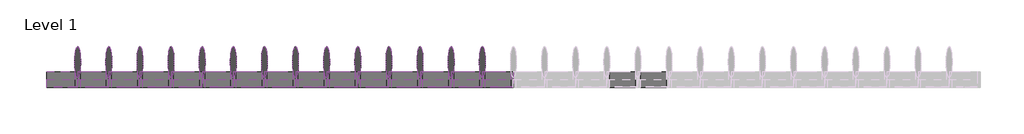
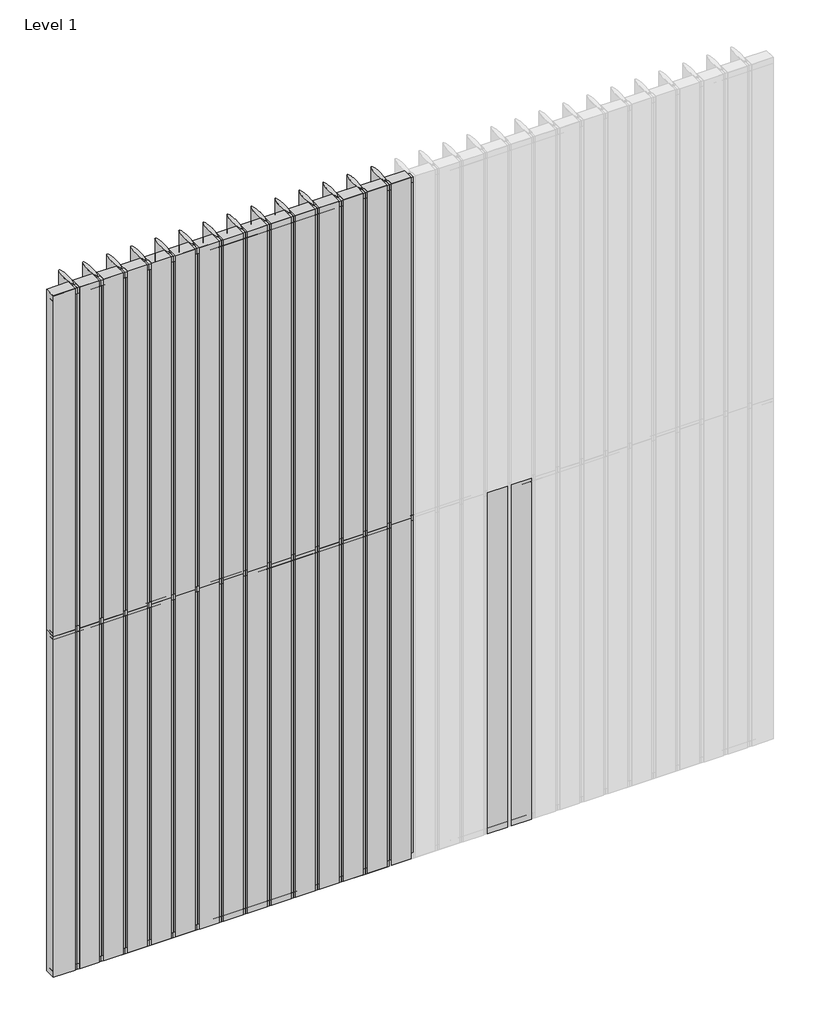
# One storey, part 1 of 2: 72 members, 62 plates.
"""IFC4 building model written with IfcOpenShell, lengths in millimetres."""

from ifc_helpers import new_model, si_unit, origin, place, context, project, spatial, transform, mapped, element, save
from components import rectangular_mullion_139a1767, rectangular_mullion_a06afc58, rectangular_mullion_614df7cf, rectangular_mullion_7d91d70c, empty_system_panel_empty_c6c0e791, empty_system_panel_empty_de494967, empty_system_panel_empty_763ef950

model = new_model("IFC4")

# Units and contexts
model_context = context("Model", 3, world=origin())
ifc_project = project(units=[si_unit("LENGTHUNIT", "METRE", prefix="MILLI")], contexts=[model_context])

# Site, building, storey
site = spatial("IfcSite", under=ifc_project)
building = spatial("IfcBuilding", under=site)
storey = spatial("IfcBuildingStorey", under=building, Name="Level 1", Elevation=0.0)

# Members
placement = place(None, origin())
rectangular_mullion_shape = rectangular_mullion_139a1767(model_context)
element("IfcMember", 1, ObjectType="Rectangular Mullion : RSen_21_CWM_blade - 200 ellips - 0°_gen_duco projects", at=placement, inside=storey, context=model_context, shape_type="MappedRepresentation", body=[
    mapped(rectangular_mullion_shape, transform((2800.0, 3000.0, 0.0), x_axis=(-1.0, 0.0, 0.0), y_axis=(0.0, 1.0, 0.0), z_axis=(0.0, 0.0, -1.0))),
])
element("IfcMember", 2, ObjectType="Rectangular Mullion : RSen_21_CWM_blade - 200 ellips - 0°_gen_duco projects", at=placement, inside=storey, context=model_context, shape_type="MappedRepresentation", body=[
    mapped(rectangular_mullion_shape, transform((2600.0, 3000.0, 0.0), x_axis=(-1.0, 0.0, 0.0), y_axis=(0.0, 1.0, 0.0), z_axis=(0.0, 0.0, -1.0))),
])
element("IfcMember", 3, ObjectType="Rectangular Mullion : RSen_21_CWM_blade - 200 ellips - 0°_gen_duco projects", at=placement, inside=storey, context=model_context, shape_type="MappedRepresentation", body=[
    mapped(rectangular_mullion_shape, transform((2400.0, 3000.0, 0.0), x_axis=(-1.0, 0.0, 0.0), y_axis=(0.0, 1.0, 0.0), z_axis=(0.0, 0.0, -1.0))),
])
element("IfcMember", 4, ObjectType="Rectangular Mullion : RSen_21_CWM_blade - 200 ellips - 0°_gen_duco projects", at=placement, inside=storey, context=model_context, shape_type="MappedRepresentation", body=[
    mapped(rectangular_mullion_shape, transform((2200.0, 3000.0, 0.0), x_axis=(-1.0, 0.0, 0.0), y_axis=(0.0, 1.0, 0.0), z_axis=(0.0, 0.0, -1.0))),
])
element("IfcMember", 5, ObjectType="Rectangular Mullion : RSen_21_CWM_blade - 200 ellips - 0°_gen_duco projects", at=placement, inside=storey, context=model_context, shape_type="MappedRepresentation", body=[
    mapped(rectangular_mullion_shape, transform((2000.0, 3000.0, 0.0), x_axis=(-1.0, 0.0, 0.0), y_axis=(0.0, 1.0, 0.0), z_axis=(0.0, 0.0, -1.0))),
])
element("IfcMember", 6, ObjectType="Rectangular Mullion : RSen_21_CWM_blade - 200 ellips - 0°_gen_duco projects", at=placement, inside=storey, context=model_context, shape_type="MappedRepresentation", body=[
    mapped(rectangular_mullion_shape, transform((1800.0, 3000.0, 0.0), x_axis=(-1.0, 0.0, 0.0), y_axis=(0.0, 1.0, 0.0), z_axis=(0.0, 0.0, -1.0))),
])
element("IfcMember", 7, ObjectType="Rectangular Mullion : RSen_21_CWM_blade - 200 ellips - 0°_gen_duco projects", at=placement, inside=storey, context=model_context, shape_type="MappedRepresentation", body=[
    mapped(rectangular_mullion_shape, transform((1600.0, 3000.0, 0.0), x_axis=(-1.0, 0.0, 0.0), y_axis=(0.0, 1.0, 0.0), z_axis=(0.0, 0.0, -1.0))),
])
element("IfcMember", 8, ObjectType="Rectangular Mullion : RSen_21_CWM_blade - 200 ellips - 0°_gen_duco projects", at=placement, inside=storey, context=model_context, shape_type="MappedRepresentation", body=[
    mapped(rectangular_mullion_shape, transform((1400.0, 3000.0, 0.0), x_axis=(-1.0, 0.0, 0.0), y_axis=(0.0, 1.0, 0.0), z_axis=(0.0, 0.0, -1.0))),
])
element("IfcMember", 9, ObjectType="Rectangular Mullion : RSen_21_CWM_blade - 200 ellips - 0°_gen_duco projects", at=placement, inside=storey, context=model_context, shape_type="MappedRepresentation", body=[
    mapped(rectangular_mullion_shape, transform((1200.0, 3000.0, 0.0), x_axis=(-1.0, 0.0, 0.0), y_axis=(0.0, 1.0, 0.0), z_axis=(0.0, 0.0, -1.0))),
])
element("IfcMember", 10, ObjectType="Rectangular Mullion : RSen_21_CWM_blade - 200 ellips - 0°_gen_duco projects", at=placement, inside=storey, context=model_context, shape_type="MappedRepresentation", body=[
    mapped(rectangular_mullion_shape, transform((1000.0, 3000.0, 0.0), x_axis=(-1.0, 0.0, 0.0), y_axis=(0.0, 1.0, 0.0), z_axis=(0.0, 0.0, -1.0))),
])
element("IfcMember", 11, ObjectType="Rectangular Mullion : RSen_21_CWM_blade - 200 ellips - 0°_gen_duco projects", at=placement, inside=storey, context=model_context, shape_type="MappedRepresentation", body=[
    mapped(rectangular_mullion_shape, transform((800.0, 3000.0, 0.0), x_axis=(-1.0, 0.0, 0.0), y_axis=(0.0, 1.0, 0.0), z_axis=(0.0, 0.0, -1.0))),
])
element("IfcMember", 12, ObjectType="Rectangular Mullion : RSen_21_CWM_blade - 200 ellips - 0°_gen_duco projects", at=placement, inside=storey, context=model_context, shape_type="MappedRepresentation", body=[
    mapped(rectangular_mullion_shape, transform((600.0, 3000.0, 0.0), x_axis=(-1.0, 0.0, 0.0), y_axis=(0.0, 1.0, 0.0), z_axis=(0.0, 0.0, -1.0))),
])
element("IfcMember", 13, ObjectType="Rectangular Mullion : RSen_21_CWM_blade - 200 ellips - 0°_gen_duco projects", at=placement, inside=storey, context=model_context, shape_type="MappedRepresentation", body=[
    mapped(rectangular_mullion_shape, transform((400.0, 3000.0, 0.0), x_axis=(-1.0, 0.0, 0.0), y_axis=(0.0, 1.0, 0.0), z_axis=(0.0, 0.0, -1.0))),
])
element("IfcMember", 14, ObjectType="Rectangular Mullion : RSen_21_CWM_blade - 200 ellips - 0°_gen_duco projects", at=placement, inside=storey, context=model_context, shape_type="MappedRepresentation", body=[
    mapped(rectangular_mullion_shape, transform((200.0, 3000.0, 0.0), x_axis=(-1.0, 0.0, 0.0), y_axis=(0.0, 1.0, 0.0), z_axis=(0.0, 0.0, -1.0))),
])
element("IfcMember", 15, ObjectType="Rectangular Mullion : RSen_21_CWM_blade - 200 ellips - 0°_gen_duco projects", at=placement, inside=storey, context=model_context, shape_type="MappedRepresentation", body=[
    mapped(rectangular_mullion_shape, transform((2800.0, 3000.0, 3000.0), x_axis=(-1.0, 0.0, 0.0), y_axis=(0.0, 1.0, 0.0), z_axis=(0.0, 0.0, -1.0))),
])
element("IfcMember", 16, ObjectType="Rectangular Mullion : RSen_21_CWM_blade - 200 ellips - 0°_gen_duco projects", at=placement, inside=storey, context=model_context, shape_type="MappedRepresentation", body=[
    mapped(rectangular_mullion_shape, transform((2600.0, 3000.0, 3000.0), x_axis=(-1.0, 0.0, 0.0), y_axis=(0.0, 1.0, 0.0), z_axis=(0.0, 0.0, -1.0))),
])
element("IfcMember", 17, ObjectType="Rectangular Mullion : RSen_21_CWM_blade - 200 ellips - 0°_gen_duco projects", at=placement, inside=storey, context=model_context, shape_type="MappedRepresentation", body=[
    mapped(rectangular_mullion_shape, transform((2400.0, 3000.0, 3000.0), x_axis=(-1.0, 0.0, 0.0), y_axis=(0.0, 1.0, 0.0), z_axis=(0.0, 0.0, -1.0))),
])
element("IfcMember", 18, ObjectType="Rectangular Mullion : RSen_21_CWM_blade - 200 ellips - 0°_gen_duco projects", at=placement, inside=storey, context=model_context, shape_type="MappedRepresentation", body=[
    mapped(rectangular_mullion_shape, transform((2200.0, 3000.0, 3000.0), x_axis=(-1.0, 0.0, 0.0), y_axis=(0.0, 1.0, 0.0), z_axis=(0.0, 0.0, -1.0))),
])
element("IfcMember", 19, ObjectType="Rectangular Mullion : RSen_21_CWM_blade - 200 ellips - 0°_gen_duco projects", at=placement, inside=storey, context=model_context, shape_type="MappedRepresentation", body=[
    mapped(rectangular_mullion_shape, transform((2000.0, 3000.0, 3000.0), x_axis=(-1.0, 0.0, 0.0), y_axis=(0.0, 1.0, 0.0), z_axis=(0.0, 0.0, -1.0))),
])
element("IfcMember", 20, ObjectType="Rectangular Mullion : RSen_21_CWM_blade - 200 ellips - 0°_gen_duco projects", at=placement, inside=storey, context=model_context, shape_type="MappedRepresentation", body=[
    mapped(rectangular_mullion_shape, transform((1800.0, 3000.0, 3000.0), x_axis=(-1.0, 0.0, 0.0), y_axis=(0.0, 1.0, 0.0), z_axis=(0.0, 0.0, -1.0))),
])
element("IfcMember", 21, ObjectType="Rectangular Mullion : RSen_21_CWM_blade - 200 ellips - 0°_gen_duco projects", at=placement, inside=storey, context=model_context, shape_type="MappedRepresentation", body=[
    mapped(rectangular_mullion_shape, transform((1600.0, 3000.0, 3000.0), x_axis=(-1.0, 0.0, 0.0), y_axis=(0.0, 1.0, 0.0), z_axis=(0.0, 0.0, -1.0))),
])
element("IfcMember", 22, ObjectType="Rectangular Mullion : RSen_21_CWM_blade - 200 ellips - 0°_gen_duco projects", at=placement, inside=storey, context=model_context, shape_type="MappedRepresentation", body=[
    mapped(rectangular_mullion_shape, transform((1400.0, 3000.0, 3000.0), x_axis=(-1.0, 0.0, 0.0), y_axis=(0.0, 1.0, 0.0), z_axis=(0.0, 0.0, -1.0))),
])
element("IfcMember", 23, ObjectType="Rectangular Mullion : RSen_21_CWM_blade - 200 ellips - 0°_gen_duco projects", at=placement, inside=storey, context=model_context, shape_type="MappedRepresentation", body=[
    mapped(rectangular_mullion_shape, transform((1200.0, 3000.0, 3000.0), x_axis=(-1.0, 0.0, 0.0), y_axis=(0.0, 1.0, 0.0), z_axis=(0.0, 0.0, -1.0))),
])
element("IfcMember", 24, ObjectType="Rectangular Mullion : RSen_21_CWM_blade - 200 ellips - 0°_gen_duco projects", at=placement, inside=storey, context=model_context, shape_type="MappedRepresentation", body=[
    mapped(rectangular_mullion_shape, transform((1000.0, 3000.0, 3000.0), x_axis=(-1.0, 0.0, 0.0), y_axis=(0.0, 1.0, 0.0), z_axis=(0.0, 0.0, -1.0))),
])
element("IfcMember", 25, ObjectType="Rectangular Mullion : RSen_21_CWM_blade - 200 ellips - 0°_gen_duco projects", at=placement, inside=storey, context=model_context, shape_type="MappedRepresentation", body=[
    mapped(rectangular_mullion_shape, transform((800.0, 3000.0, 3000.0), x_axis=(-1.0, 0.0, 0.0), y_axis=(0.0, 1.0, 0.0), z_axis=(0.0, 0.0, -1.0))),
])
element("IfcMember", 26, ObjectType="Rectangular Mullion : RSen_21_CWM_blade - 200 ellips - 0°_gen_duco projects", at=placement, inside=storey, context=model_context, shape_type="MappedRepresentation", body=[
    mapped(rectangular_mullion_shape, transform((600.0, 3000.0, 3000.0), x_axis=(-1.0, 0.0, 0.0), y_axis=(0.0, 1.0, 0.0), z_axis=(0.0, 0.0, -1.0))),
])
element("IfcMember", 27, ObjectType="Rectangular Mullion : RSen_21_CWM_blade - 200 ellips - 0°_gen_duco projects", at=placement, inside=storey, context=model_context, shape_type="MappedRepresentation", body=[
    mapped(rectangular_mullion_shape, transform((400.0, 3000.0, 3000.0), x_axis=(-1.0, 0.0, 0.0), y_axis=(0.0, 1.0, 0.0), z_axis=(0.0, 0.0, -1.0))),
])
element("IfcMember", 28, ObjectType="Rectangular Mullion : RSen_21_CWM_blade - 200 ellips - 0°_gen_duco projects", at=placement, inside=storey, context=model_context, shape_type="MappedRepresentation", body=[
    mapped(rectangular_mullion_shape, transform((200.0, 3000.0, 3000.0), x_axis=(-1.0, 0.0, 0.0), y_axis=(0.0, 1.0, 0.0), z_axis=(0.0, 0.0, -1.0))),
])
rectangular_mullion_2_shape = rectangular_mullion_a06afc58(model_context)
element("IfcMember", 29, ObjectType="Rectangular Mullion : RSen_21_CWM_support profile 50x50 - left_gen_duco projects", at=placement, inside=storey, context=model_context, shape_type="MappedRepresentation", body=[
    mapped(rectangular_mullion_2_shape, transform((0.0, 3000.0, 6000.0), x_axis=(0.0, 0.0, 1.0), y_axis=(0.0, 1.0, 0.0), z_axis=(-1.0, 0.0, 0.0))),
])
element("IfcMember", 30, ObjectType="Rectangular Mullion : RSen_21_CWM_support profile 50x50 - left_gen_duco projects", at=placement, inside=storey, context=model_context, shape_type="MappedRepresentation", body=[
    mapped(rectangular_mullion_2_shape, transform((2800.0, 3000.0, 6000.0), x_axis=(0.0, 0.0, 1.0), y_axis=(0.0, 1.0, 0.0), z_axis=(-1.0, 0.0, 0.0))),
])
element("IfcMember", 31, ObjectType="Rectangular Mullion : RSen_21_CWM_support profile 50x50 - left_gen_duco projects", at=placement, inside=storey, context=model_context, shape_type="MappedRepresentation", body=[
    mapped(rectangular_mullion_2_shape, transform((2600.0, 3000.0, 6000.0), x_axis=(0.0, 0.0, 1.0), y_axis=(0.0, 1.0, 0.0), z_axis=(-1.0, 0.0, 0.0))),
])
element("IfcMember", 32, ObjectType="Rectangular Mullion : RSen_21_CWM_support profile 50x50 - left_gen_duco projects", at=placement, inside=storey, context=model_context, shape_type="MappedRepresentation", body=[
    mapped(rectangular_mullion_2_shape, transform((2400.0, 3000.0, 6000.0), x_axis=(0.0, 0.0, 1.0), y_axis=(0.0, 1.0, 0.0), z_axis=(-1.0, 0.0, 0.0))),
])
element("IfcMember", 33, ObjectType="Rectangular Mullion : RSen_21_CWM_support profile 50x50 - left_gen_duco projects", at=placement, inside=storey, context=model_context, shape_type="MappedRepresentation", body=[
    mapped(rectangular_mullion_2_shape, transform((2200.0, 3000.0, 6000.0), x_axis=(0.0, 0.0, 1.0), y_axis=(0.0, 1.0, 0.0), z_axis=(-1.0, 0.0, 0.0))),
])
element("IfcMember", 34, ObjectType="Rectangular Mullion : RSen_21_CWM_support profile 50x50 - left_gen_duco projects", at=placement, inside=storey, context=model_context, shape_type="MappedRepresentation", body=[
    mapped(rectangular_mullion_2_shape, transform((2000.0, 3000.0, 6000.0), x_axis=(0.0, 0.0, 1.0), y_axis=(0.0, 1.0, 0.0), z_axis=(-1.0, 0.0, 0.0))),
])
element("IfcMember", 35, ObjectType="Rectangular Mullion : RSen_21_CWM_support profile 50x50 - left_gen_duco projects", at=placement, inside=storey, context=model_context, shape_type="MappedRepresentation", body=[
    mapped(rectangular_mullion_2_shape, transform((1800.0, 3000.0, 6000.0), x_axis=(0.0, 0.0, 1.0), y_axis=(0.0, 1.0, 0.0), z_axis=(-1.0, 0.0, 0.0))),
])
element("IfcMember", 36, ObjectType="Rectangular Mullion : RSen_21_CWM_support profile 50x50 - left_gen_duco projects", at=placement, inside=storey, context=model_context, shape_type="MappedRepresentation", body=[
    mapped(rectangular_mullion_2_shape, transform((1600.0, 3000.0, 6000.0), x_axis=(0.0, 0.0, 1.0), y_axis=(0.0, 1.0, 0.0), z_axis=(-1.0, 0.0, 0.0))),
])
element("IfcMember", 37, ObjectType="Rectangular Mullion : RSen_21_CWM_support profile 50x50 - left_gen_duco projects", at=placement, inside=storey, context=model_context, shape_type="MappedRepresentation", body=[
    mapped(rectangular_mullion_2_shape, transform((1400.0, 3000.0, 6000.0), x_axis=(0.0, 0.0, 1.0), y_axis=(0.0, 1.0, 0.0), z_axis=(-1.0, 0.0, 0.0))),
])
element("IfcMember", 38, ObjectType="Rectangular Mullion : RSen_21_CWM_support profile 50x50 - left_gen_duco projects", at=placement, inside=storey, context=model_context, shape_type="MappedRepresentation", body=[
    mapped(rectangular_mullion_2_shape, transform((1200.0, 3000.0, 6000.0), x_axis=(0.0, 0.0, 1.0), y_axis=(0.0, 1.0, 0.0), z_axis=(-1.0, 0.0, 0.0))),
])
element("IfcMember", 39, ObjectType="Rectangular Mullion : RSen_21_CWM_support profile 50x50 - left_gen_duco projects", at=placement, inside=storey, context=model_context, shape_type="MappedRepresentation", body=[
    mapped(rectangular_mullion_2_shape, transform((1000.0, 3000.0, 6000.0), x_axis=(0.0, 0.0, 1.0), y_axis=(0.0, 1.0, 0.0), z_axis=(-1.0, 0.0, 0.0))),
])
element("IfcMember", 40, ObjectType="Rectangular Mullion : RSen_21_CWM_support profile 50x50 - left_gen_duco projects", at=placement, inside=storey, context=model_context, shape_type="MappedRepresentation", body=[
    mapped(rectangular_mullion_2_shape, transform((800.0, 3000.0, 6000.0), x_axis=(0.0, 0.0, 1.0), y_axis=(0.0, 1.0, 0.0), z_axis=(-1.0, 0.0, 0.0))),
])
element("IfcMember", 41, ObjectType="Rectangular Mullion : RSen_21_CWM_support profile 50x50 - left_gen_duco projects", at=placement, inside=storey, context=model_context, shape_type="MappedRepresentation", body=[
    mapped(rectangular_mullion_2_shape, transform((600.0, 3000.0, 6000.0), x_axis=(0.0, 0.0, 1.0), y_axis=(0.0, 1.0, 0.0), z_axis=(-1.0, 0.0, 0.0))),
])
element("IfcMember", 42, ObjectType="Rectangular Mullion : RSen_21_CWM_support profile 50x50 - left_gen_duco projects", at=placement, inside=storey, context=model_context, shape_type="MappedRepresentation", body=[
    mapped(rectangular_mullion_2_shape, transform((400.0, 3000.0, 6000.0), x_axis=(0.0, 0.0, 1.0), y_axis=(0.0, 1.0, 0.0), z_axis=(-1.0, 0.0, 0.0))),
])
element("IfcMember", 43, ObjectType="Rectangular Mullion : RSen_21_CWM_support profile 50x50 - left_gen_duco projects", at=placement, inside=storey, context=model_context, shape_type="MappedRepresentation", body=[
    mapped(rectangular_mullion_2_shape, transform((200.0, 3000.0, 6000.0), x_axis=(0.0, 0.0, 1.0), y_axis=(0.0, 1.0, 0.0), z_axis=(-1.0, 0.0, 0.0))),
])
rectangular_mullion_3_shape = rectangular_mullion_614df7cf(model_context)
element("IfcMember", 44, ObjectType="Rectangular Mullion : RSen_21_CWM_support profile 50x50 - right_gen_duco projects", at=placement, inside=storey, context=model_context, shape_type="MappedRepresentation", body=[
    mapped(rectangular_mullion_3_shape, transform((2800.0, 3000.0, 0.0), x_axis=(0.0, 0.0, -1.0), y_axis=(0.0, 1.0, 0.0), z_axis=(1.0, 0.0, 0.0))),
])
element("IfcMember", 45, ObjectType="Rectangular Mullion : RSen_21_CWM_support profile 50x50 - right_gen_duco projects", at=placement, inside=storey, context=model_context, shape_type="MappedRepresentation", body=[
    mapped(rectangular_mullion_3_shape, transform((2600.0, 3000.0, 0.0), x_axis=(0.0, 0.0, -1.0), y_axis=(0.0, 1.0, 0.0), z_axis=(1.0, 0.0, 0.0))),
])
element("IfcMember", 46, ObjectType="Rectangular Mullion : RSen_21_CWM_support profile 50x50 - right_gen_duco projects", at=placement, inside=storey, context=model_context, shape_type="MappedRepresentation", body=[
    mapped(rectangular_mullion_3_shape, transform((2400.0, 3000.0, 0.0), x_axis=(0.0, 0.0, -1.0), y_axis=(0.0, 1.0, 0.0), z_axis=(1.0, 0.0, 0.0))),
])
element("IfcMember", 47, ObjectType="Rectangular Mullion : RSen_21_CWM_support profile 50x50 - right_gen_duco projects", at=placement, inside=storey, context=model_context, shape_type="MappedRepresentation", body=[
    mapped(rectangular_mullion_3_shape, transform((2200.0, 3000.0, 0.0), x_axis=(0.0, 0.0, -1.0), y_axis=(0.0, 1.0, 0.0), z_axis=(1.0, 0.0, 0.0))),
])
element("IfcMember", 48, ObjectType="Rectangular Mullion : RSen_21_CWM_support profile 50x50 - right_gen_duco projects", at=placement, inside=storey, context=model_context, shape_type="MappedRepresentation", body=[
    mapped(rectangular_mullion_3_shape, transform((2000.0, 3000.0, 0.0), x_axis=(0.0, 0.0, -1.0), y_axis=(0.0, 1.0, 0.0), z_axis=(1.0, 0.0, 0.0))),
])
element("IfcMember", 49, ObjectType="Rectangular Mullion : RSen_21_CWM_support profile 50x50 - right_gen_duco projects", at=placement, inside=storey, context=model_context, shape_type="MappedRepresentation", body=[
    mapped(rectangular_mullion_3_shape, transform((1800.0, 3000.0, 0.0), x_axis=(0.0, 0.0, -1.0), y_axis=(0.0, 1.0, 0.0), z_axis=(1.0, 0.0, 0.0))),
])
element("IfcMember", 50, ObjectType="Rectangular Mullion : RSen_21_CWM_support profile 50x50 - right_gen_duco projects", at=placement, inside=storey, context=model_context, shape_type="MappedRepresentation", body=[
    mapped(rectangular_mullion_3_shape, transform((1600.0, 3000.0, 0.0), x_axis=(0.0, 0.0, -1.0), y_axis=(0.0, 1.0, 0.0), z_axis=(1.0, 0.0, 0.0))),
])
element("IfcMember", 51, ObjectType="Rectangular Mullion : RSen_21_CWM_support profile 50x50 - right_gen_duco projects", at=placement, inside=storey, context=model_context, shape_type="MappedRepresentation", body=[
    mapped(rectangular_mullion_3_shape, transform((1400.0, 3000.0, 0.0), x_axis=(0.0, 0.0, -1.0), y_axis=(0.0, 1.0, 0.0), z_axis=(1.0, 0.0, 0.0))),
])
element("IfcMember", 52, ObjectType="Rectangular Mullion : RSen_21_CWM_support profile 50x50 - right_gen_duco projects", at=placement, inside=storey, context=model_context, shape_type="MappedRepresentation", body=[
    mapped(rectangular_mullion_3_shape, transform((1200.0, 3000.0, 0.0), x_axis=(0.0, 0.0, -1.0), y_axis=(0.0, 1.0, 0.0), z_axis=(1.0, 0.0, 0.0))),
])
element("IfcMember", 53, ObjectType="Rectangular Mullion : RSen_21_CWM_support profile 50x50 - right_gen_duco projects", at=placement, inside=storey, context=model_context, shape_type="MappedRepresentation", body=[
    mapped(rectangular_mullion_3_shape, transform((1000.0, 3000.0, 0.0), x_axis=(0.0, 0.0, -1.0), y_axis=(0.0, 1.0, 0.0), z_axis=(1.0, 0.0, 0.0))),
])
element("IfcMember", 54, ObjectType="Rectangular Mullion : RSen_21_CWM_support profile 50x50 - right_gen_duco projects", at=placement, inside=storey, context=model_context, shape_type="MappedRepresentation", body=[
    mapped(rectangular_mullion_3_shape, transform((800.0, 3000.0, 0.0), x_axis=(0.0, 0.0, -1.0), y_axis=(0.0, 1.0, 0.0), z_axis=(1.0, 0.0, 0.0))),
])
element("IfcMember", 55, ObjectType="Rectangular Mullion : RSen_21_CWM_support profile 50x50 - right_gen_duco projects", at=placement, inside=storey, context=model_context, shape_type="MappedRepresentation", body=[
    mapped(rectangular_mullion_3_shape, transform((600.0, 3000.0, 0.0), x_axis=(0.0, 0.0, -1.0), y_axis=(0.0, 1.0, 0.0), z_axis=(1.0, 0.0, 0.0))),
])
element("IfcMember", 56, ObjectType="Rectangular Mullion : RSen_21_CWM_support profile 50x50 - right_gen_duco projects", at=placement, inside=storey, context=model_context, shape_type="MappedRepresentation", body=[
    mapped(rectangular_mullion_3_shape, transform((400.0, 3000.0, 0.0), x_axis=(0.0, 0.0, -1.0), y_axis=(0.0, 1.0, 0.0), z_axis=(1.0, 0.0, 0.0))),
])
element("IfcMember", 57, ObjectType="Rectangular Mullion : RSen_21_CWM_support profile 50x50 - right_gen_duco projects", at=placement, inside=storey, context=model_context, shape_type="MappedRepresentation", body=[
    mapped(rectangular_mullion_3_shape, transform((200.0, 3000.0, 0.0), x_axis=(0.0, 0.0, -1.0), y_axis=(0.0, 1.0, 0.0), z_axis=(1.0, 0.0, 0.0))),
])
rectangular_mullion_4_shape = rectangular_mullion_7d91d70c(model_context)
element("IfcMember", 58, ObjectType="Rectangular Mullion : RSen_21_CWM_support profile 50x50_gen_duco projects", at=placement, inside=storey, context=model_context, shape_type="MappedRepresentation", body=[
    mapped(rectangular_mullion_4_shape, transform((2800.0, 3000.0, 3000.0), x_axis=(0.0, 0.0, 1.0), y_axis=(0.0, 1.0, 0.0), z_axis=(-1.0, 0.0, 0.0))),
])
element("IfcMember", 59, ObjectType="Rectangular Mullion : RSen_21_CWM_support profile 50x50_gen_duco projects", at=placement, inside=storey, context=model_context, shape_type="MappedRepresentation", body=[
    mapped(rectangular_mullion_4_shape, transform((2600.0, 3000.0, 3000.0), x_axis=(0.0, 0.0, 1.0), y_axis=(0.0, 1.0, 0.0), z_axis=(-1.0, 0.0, 0.0))),
])
element("IfcMember", 60, ObjectType="Rectangular Mullion : RSen_21_CWM_support profile 50x50_gen_duco projects", at=placement, inside=storey, context=model_context, shape_type="MappedRepresentation", body=[
    mapped(rectangular_mullion_4_shape, transform((2400.0, 3000.0, 3000.0), x_axis=(0.0, 0.0, 1.0), y_axis=(0.0, 1.0, 0.0), z_axis=(-1.0, 0.0, 0.0))),
])
element("IfcMember", 61, ObjectType="Rectangular Mullion : RSen_21_CWM_support profile 50x50_gen_duco projects", at=placement, inside=storey, context=model_context, shape_type="MappedRepresentation", body=[
    mapped(rectangular_mullion_4_shape, transform((2200.0, 3000.0, 3000.0), x_axis=(0.0, 0.0, 1.0), y_axis=(0.0, 1.0, 0.0), z_axis=(-1.0, 0.0, 0.0))),
])
element("IfcMember", 62, ObjectType="Rectangular Mullion : RSen_21_CWM_support profile 50x50_gen_duco projects", at=placement, inside=storey, context=model_context, shape_type="MappedRepresentation", body=[
    mapped(rectangular_mullion_4_shape, transform((2000.0, 3000.0, 3000.0), x_axis=(0.0, 0.0, 1.0), y_axis=(0.0, 1.0, 0.0), z_axis=(-1.0, 0.0, 0.0))),
])
element("IfcMember", 63, ObjectType="Rectangular Mullion : RSen_21_CWM_support profile 50x50_gen_duco projects", at=placement, inside=storey, context=model_context, shape_type="MappedRepresentation", body=[
    mapped(rectangular_mullion_4_shape, transform((1800.0, 3000.0, 3000.0), x_axis=(0.0, 0.0, 1.0), y_axis=(0.0, 1.0, 0.0), z_axis=(-1.0, 0.0, 0.0))),
])
element("IfcMember", 64, ObjectType="Rectangular Mullion : RSen_21_CWM_support profile 50x50_gen_duco projects", at=placement, inside=storey, context=model_context, shape_type="MappedRepresentation", body=[
    mapped(rectangular_mullion_4_shape, transform((1600.0, 3000.0, 3000.0), x_axis=(0.0, 0.0, 1.0), y_axis=(0.0, 1.0, 0.0), z_axis=(-1.0, 0.0, 0.0))),
])
element("IfcMember", 65, ObjectType="Rectangular Mullion : RSen_21_CWM_support profile 50x50_gen_duco projects", at=placement, inside=storey, context=model_context, shape_type="MappedRepresentation", body=[
    mapped(rectangular_mullion_4_shape, transform((1400.0, 3000.0, 3000.0), x_axis=(0.0, 0.0, 1.0), y_axis=(0.0, 1.0, 0.0), z_axis=(-1.0, 0.0, 0.0))),
])
element("IfcMember", 66, ObjectType="Rectangular Mullion : RSen_21_CWM_support profile 50x50_gen_duco projects", at=placement, inside=storey, context=model_context, shape_type="MappedRepresentation", body=[
    mapped(rectangular_mullion_4_shape, transform((1200.0, 3000.0, 3000.0), x_axis=(0.0, 0.0, 1.0), y_axis=(0.0, 1.0, 0.0), z_axis=(-1.0, 0.0, 0.0))),
])
element("IfcMember", 67, ObjectType="Rectangular Mullion : RSen_21_CWM_support profile 50x50_gen_duco projects", at=placement, inside=storey, context=model_context, shape_type="MappedRepresentation", body=[
    mapped(rectangular_mullion_4_shape, transform((1000.0, 3000.0, 3000.0), x_axis=(0.0, 0.0, 1.0), y_axis=(0.0, 1.0, 0.0), z_axis=(-1.0, 0.0, 0.0))),
])
element("IfcMember", 68, ObjectType="Rectangular Mullion : RSen_21_CWM_support profile 50x50_gen_duco projects", at=placement, inside=storey, context=model_context, shape_type="MappedRepresentation", body=[
    mapped(rectangular_mullion_4_shape, transform((800.0, 3000.0, 3000.0), x_axis=(0.0, 0.0, 1.0), y_axis=(0.0, 1.0, 0.0), z_axis=(-1.0, 0.0, 0.0))),
])
element("IfcMember", 69, ObjectType="Rectangular Mullion : RSen_21_CWM_support profile 50x50_gen_duco projects", at=placement, inside=storey, context=model_context, shape_type="MappedRepresentation", body=[
    mapped(rectangular_mullion_4_shape, transform((600.0, 3000.0, 3000.0), x_axis=(0.0, 0.0, 1.0), y_axis=(0.0, 1.0, 0.0), z_axis=(-1.0, 0.0, 0.0))),
])
element("IfcMember", 70, ObjectType="Rectangular Mullion : RSen_21_CWM_support profile 50x50_gen_duco projects", at=placement, inside=storey, context=model_context, shape_type="MappedRepresentation", body=[
    mapped(rectangular_mullion_4_shape, transform((400.0, 3000.0, 3000.0), x_axis=(0.0, 0.0, 1.0), y_axis=(0.0, 1.0, 0.0), z_axis=(-1.0, 0.0, 0.0))),
])
element("IfcMember", 71, ObjectType="Rectangular Mullion : RSen_21_CWM_support profile 50x50_gen_duco projects", at=placement, inside=storey, context=model_context, shape_type="MappedRepresentation", body=[
    mapped(rectangular_mullion_4_shape, transform((200.0, 3000.0, 3000.0), x_axis=(0.0, 0.0, 1.0), y_axis=(0.0, 1.0, 0.0), z_axis=(-1.0, 0.0, 0.0))),
])
element("IfcMember", 72, ObjectType="Rectangular Mullion : RSen_21_CWM_support profile 50x50_gen_duco projects", at=placement, inside=storey, context=model_context, shape_type="MappedRepresentation", body=[
    mapped(rectangular_mullion_4_shape, transform((0.0, 3000.0, 3000.0), x_axis=(0.0, 0.0, 1.0), y_axis=(0.0, 1.0, 0.0), z_axis=(-1.0, 0.0, 0.0))),
])

# Plates
empty_system_panel_empty_shape = empty_system_panel_empty_c6c0e791(model_context)
element("IfcPlate", 73, ObjectType="Empty System Panel : Empty", at=placement, inside=storey, context=model_context, shape_type="MappedRepresentation", body=[
    mapped(empty_system_panel_empty_shape, transform((90.75, 3000.0, 0.0), x_axis=(-1.0, 0.0, 0.0), y_axis=(0.0, -1.0, 0.0), z_axis=(0.0, 0.0, 1.0))),
])
element("IfcPlate", 74, ObjectType="Empty System Panel : Empty", at=placement, inside=storey, context=model_context, shape_type="MappedRepresentation", body=[
    mapped(empty_system_panel_empty_shape, transform((90.75, 3000.0, 3000.0), x_axis=(-1.0, 0.0, 0.0), y_axis=(0.0, -1.0, 0.0), z_axis=(0.0, 0.0, 1.0))),
])
empty_system_panel_empty_2_shape = empty_system_panel_empty_de494967(model_context)
element("IfcPlate", 75, ObjectType="Empty System Panel : Empty", at=placement, inside=storey, context=model_context, shape_type="MappedRepresentation", body=[
    mapped(empty_system_panel_empty_2_shape, transform((3900.0, 3000.0, 0.0), x_axis=(-1.0, 0.0, 0.0), y_axis=(0.0, -1.0, 0.0), z_axis=(0.0, 0.0, 1.0))),
])
element("IfcPlate", 76, ObjectType="Empty System Panel : Empty", at=placement, inside=storey, context=model_context, shape_type="MappedRepresentation", body=[
    mapped(empty_system_panel_empty_2_shape, transform((3700.0, 3000.0, 0.0), x_axis=(-1.0, 0.0, 0.0), y_axis=(0.0, -1.0, 0.0), z_axis=(0.0, 0.0, 1.0))),
])
element("IfcPlate", 77, ObjectType="Empty System Panel : Empty", at=placement, inside=storey, context=model_context, shape_type="MappedRepresentation", body=[
    mapped(empty_system_panel_empty_2_shape, transform((2900.0, 3000.0, 0.0), x_axis=(-1.0, 0.0, 0.0), y_axis=(0.0, -1.0, 0.0), z_axis=(0.0, 0.0, 1.0))),
])
element("IfcPlate", 78, ObjectType="Empty System Panel : Empty", at=placement, inside=storey, context=model_context, shape_type="MappedRepresentation", body=[
    mapped(empty_system_panel_empty_2_shape, transform((2700.0, 3000.0, 0.0), x_axis=(-1.0, 0.0, 0.0), y_axis=(0.0, -1.0, 0.0), z_axis=(0.0, 0.0, 1.0))),
])
element("IfcPlate", 79, ObjectType="Empty System Panel : Empty", at=placement, inside=storey, context=model_context, shape_type="MappedRepresentation", body=[
    mapped(empty_system_panel_empty_2_shape, transform((2500.0, 3000.0, 0.0), x_axis=(-1.0, 0.0, 0.0), y_axis=(0.0, -1.0, 0.0), z_axis=(0.0, 0.0, 1.0))),
])
element("IfcPlate", 80, ObjectType="Empty System Panel : Empty", at=placement, inside=storey, context=model_context, shape_type="MappedRepresentation", body=[
    mapped(empty_system_panel_empty_2_shape, transform((2300.0, 3000.0, 0.0), x_axis=(-1.0, 0.0, 0.0), y_axis=(0.0, -1.0, 0.0), z_axis=(0.0, 0.0, 1.0))),
])
element("IfcPlate", 81, ObjectType="Empty System Panel : Empty", at=placement, inside=storey, context=model_context, shape_type="MappedRepresentation", body=[
    mapped(empty_system_panel_empty_2_shape, transform((2100.0, 3000.0, 0.0), x_axis=(-1.0, 0.0, 0.0), y_axis=(0.0, -1.0, 0.0), z_axis=(0.0, 0.0, 1.0))),
])
element("IfcPlate", 82, ObjectType="Empty System Panel : Empty", at=placement, inside=storey, context=model_context, shape_type="MappedRepresentation", body=[
    mapped(empty_system_panel_empty_2_shape, transform((1900.0, 3000.0, 0.0), x_axis=(-1.0, 0.0, 0.0), y_axis=(0.0, -1.0, 0.0), z_axis=(0.0, 0.0, 1.0))),
])
element("IfcPlate", 83, ObjectType="Empty System Panel : Empty", at=placement, inside=storey, context=model_context, shape_type="MappedRepresentation", body=[
    mapped(empty_system_panel_empty_2_shape, transform((1700.0, 3000.0, 0.0), x_axis=(-1.0, 0.0, 0.0), y_axis=(0.0, -1.0, 0.0), z_axis=(0.0, 0.0, 1.0))),
])
element("IfcPlate", 84, ObjectType="Empty System Panel : Empty", at=placement, inside=storey, context=model_context, shape_type="MappedRepresentation", body=[
    mapped(empty_system_panel_empty_2_shape, transform((1500.0, 3000.0, 0.0), x_axis=(-1.0, 0.0, 0.0), y_axis=(0.0, -1.0, 0.0), z_axis=(0.0, 0.0, 1.0))),
])
element("IfcPlate", 85, ObjectType="Empty System Panel : Empty", at=placement, inside=storey, context=model_context, shape_type="MappedRepresentation", body=[
    mapped(empty_system_panel_empty_2_shape, transform((1300.0, 3000.0, 0.0), x_axis=(-1.0, 0.0, 0.0), y_axis=(0.0, -1.0, 0.0), z_axis=(0.0, 0.0, 1.0))),
])
element("IfcPlate", 86, ObjectType="Empty System Panel : Empty", at=placement, inside=storey, context=model_context, shape_type="MappedRepresentation", body=[
    mapped(empty_system_panel_empty_2_shape, transform((1100.0, 3000.0, 0.0), x_axis=(-1.0, 0.0, 0.0), y_axis=(0.0, -1.0, 0.0), z_axis=(0.0, 0.0, 1.0))),
])
element("IfcPlate", 87, ObjectType="Empty System Panel : Empty", at=placement, inside=storey, context=model_context, shape_type="MappedRepresentation", body=[
    mapped(empty_system_panel_empty_2_shape, transform((900.0, 3000.0, 0.0), x_axis=(-1.0, 0.0, 0.0), y_axis=(0.0, -1.0, 0.0), z_axis=(0.0, 0.0, 1.0))),
])
element("IfcPlate", 88, ObjectType="Empty System Panel : Empty", at=placement, inside=storey, context=model_context, shape_type="MappedRepresentation", body=[
    mapped(empty_system_panel_empty_2_shape, transform((700.0, 3000.0, 0.0), x_axis=(-1.0, 0.0, 0.0), y_axis=(0.0, -1.0, 0.0), z_axis=(0.0, 0.0, 1.0))),
])
element("IfcPlate", 89, ObjectType="Empty System Panel : Empty", at=placement, inside=storey, context=model_context, shape_type="MappedRepresentation", body=[
    mapped(empty_system_panel_empty_2_shape, transform((500.0, 3000.0, 0.0), x_axis=(-1.0, 0.0, 0.0), y_axis=(0.0, -1.0, 0.0), z_axis=(0.0, 0.0, 1.0))),
])
element("IfcPlate", 90, ObjectType="Empty System Panel : Empty", at=placement, inside=storey, context=model_context, shape_type="MappedRepresentation", body=[
    mapped(empty_system_panel_empty_2_shape, transform((300.0, 3000.0, 0.0), x_axis=(-1.0, 0.0, 0.0), y_axis=(0.0, -1.0, 0.0), z_axis=(0.0, 0.0, 1.0))),
])
element("IfcPlate", 91, ObjectType="Empty System Panel : Empty", at=placement, inside=storey, context=model_context, shape_type="MappedRepresentation", body=[
    mapped(empty_system_panel_empty_2_shape, transform((2900.0, 3000.0, 3000.0), x_axis=(-1.0, 0.0, 0.0), y_axis=(0.0, -1.0, 0.0), z_axis=(0.0, 0.0, 1.0))),
])
element("IfcPlate", 92, ObjectType="Empty System Panel : Empty", at=placement, inside=storey, context=model_context, shape_type="MappedRepresentation", body=[
    mapped(empty_system_panel_empty_2_shape, transform((2700.0, 3000.0, 3000.0), x_axis=(-1.0, 0.0, 0.0), y_axis=(0.0, -1.0, 0.0), z_axis=(0.0, 0.0, 1.0))),
])
element("IfcPlate", 93, ObjectType="Empty System Panel : Empty", at=placement, inside=storey, context=model_context, shape_type="MappedRepresentation", body=[
    mapped(empty_system_panel_empty_2_shape, transform((2500.0, 3000.0, 3000.0), x_axis=(-1.0, 0.0, 0.0), y_axis=(0.0, -1.0, 0.0), z_axis=(0.0, 0.0, 1.0))),
])
element("IfcPlate", 94, ObjectType="Empty System Panel : Empty", at=placement, inside=storey, context=model_context, shape_type="MappedRepresentation", body=[
    mapped(empty_system_panel_empty_2_shape, transform((2300.0, 3000.0, 3000.0), x_axis=(-1.0, 0.0, 0.0), y_axis=(0.0, -1.0, 0.0), z_axis=(0.0, 0.0, 1.0))),
])
element("IfcPlate", 95, ObjectType="Empty System Panel : Empty", at=placement, inside=storey, context=model_context, shape_type="MappedRepresentation", body=[
    mapped(empty_system_panel_empty_2_shape, transform((2100.0, 3000.0, 3000.0), x_axis=(-1.0, 0.0, 0.0), y_axis=(0.0, -1.0, 0.0), z_axis=(0.0, 0.0, 1.0))),
])
element("IfcPlate", 96, ObjectType="Empty System Panel : Empty", at=placement, inside=storey, context=model_context, shape_type="MappedRepresentation", body=[
    mapped(empty_system_panel_empty_2_shape, transform((1900.0, 3000.0, 3000.0), x_axis=(-1.0, 0.0, 0.0), y_axis=(0.0, -1.0, 0.0), z_axis=(0.0, 0.0, 1.0))),
])
element("IfcPlate", 97, ObjectType="Empty System Panel : Empty", at=placement, inside=storey, context=model_context, shape_type="MappedRepresentation", body=[
    mapped(empty_system_panel_empty_2_shape, transform((1700.0, 3000.0, 3000.0), x_axis=(-1.0, 0.0, 0.0), y_axis=(0.0, -1.0, 0.0), z_axis=(0.0, 0.0, 1.0))),
])
element("IfcPlate", 98, ObjectType="Empty System Panel : Empty", at=placement, inside=storey, context=model_context, shape_type="MappedRepresentation", body=[
    mapped(empty_system_panel_empty_2_shape, transform((1500.0, 3000.0, 3000.0), x_axis=(-1.0, 0.0, 0.0), y_axis=(0.0, -1.0, 0.0), z_axis=(0.0, 0.0, 1.0))),
])
element("IfcPlate", 99, ObjectType="Empty System Panel : Empty", at=placement, inside=storey, context=model_context, shape_type="MappedRepresentation", body=[
    mapped(empty_system_panel_empty_2_shape, transform((1300.0, 3000.0, 3000.0), x_axis=(-1.0, 0.0, 0.0), y_axis=(0.0, -1.0, 0.0), z_axis=(0.0, 0.0, 1.0))),
])
element("IfcPlate", 100, ObjectType="Empty System Panel : Empty", at=placement, inside=storey, context=model_context, shape_type="MappedRepresentation", body=[
    mapped(empty_system_panel_empty_2_shape, transform((1100.0, 3000.0, 3000.0), x_axis=(-1.0, 0.0, 0.0), y_axis=(0.0, -1.0, 0.0), z_axis=(0.0, 0.0, 1.0))),
])
element("IfcPlate", 101, ObjectType="Empty System Panel : Empty", at=placement, inside=storey, context=model_context, shape_type="MappedRepresentation", body=[
    mapped(empty_system_panel_empty_2_shape, transform((900.0, 3000.0, 3000.0), x_axis=(-1.0, 0.0, 0.0), y_axis=(0.0, -1.0, 0.0), z_axis=(0.0, 0.0, 1.0))),
])
element("IfcPlate", 102, ObjectType="Empty System Panel : Empty", at=placement, inside=storey, context=model_context, shape_type="MappedRepresentation", body=[
    mapped(empty_system_panel_empty_2_shape, transform((700.0, 3000.0, 3000.0), x_axis=(-1.0, 0.0, 0.0), y_axis=(0.0, -1.0, 0.0), z_axis=(0.0, 0.0, 1.0))),
])
element("IfcPlate", 103, ObjectType="Empty System Panel : Empty", at=placement, inside=storey, context=model_context, shape_type="MappedRepresentation", body=[
    mapped(empty_system_panel_empty_2_shape, transform((500.0, 3000.0, 3000.0), x_axis=(-1.0, 0.0, 0.0), y_axis=(0.0, -1.0, 0.0), z_axis=(0.0, 0.0, 1.0))),
])
element("IfcPlate", 104, ObjectType="Empty System Panel : Empty", at=placement, inside=storey, context=model_context, shape_type="MappedRepresentation", body=[
    mapped(empty_system_panel_empty_2_shape, transform((300.0, 3000.0, 3000.0), x_axis=(-1.0, 0.0, 0.0), y_axis=(0.0, -1.0, 0.0), z_axis=(0.0, 0.0, 1.0))),
])
empty_system_panel_empty_3_shape = empty_system_panel_empty_763ef950(model_context)
element("IfcPlate", 105, ObjectType="Empty System Panel : Empty", at=placement, inside=storey, context=model_context, shape_type="MappedRepresentation", body=[
    mapped(empty_system_panel_empty_3_shape, transform((2900.0, 3000.0, 50.0), x_axis=(-1.0, 0.0, 0.0), y_axis=(0.0, -1.0, 0.0), z_axis=(0.0, 0.0, 1.0))),
])
element("IfcPlate", 106, ObjectType="Empty System Panel : Empty", at=placement, inside=storey, context=model_context, shape_type="MappedRepresentation", body=[
    mapped(empty_system_panel_empty_3_shape, transform((2700.0, 3000.0, 50.0), x_axis=(-1.0, 0.0, 0.0), y_axis=(0.0, -1.0, 0.0), z_axis=(0.0, 0.0, 1.0))),
])
element("IfcPlate", 107, ObjectType="Empty System Panel : Empty", at=placement, inside=storey, context=model_context, shape_type="MappedRepresentation", body=[
    mapped(empty_system_panel_empty_3_shape, transform((2500.0, 3000.0, 50.0), x_axis=(-1.0, 0.0, 0.0), y_axis=(0.0, -1.0, 0.0), z_axis=(0.0, 0.0, 1.0))),
])
element("IfcPlate", 108, ObjectType="Empty System Panel : Empty", at=placement, inside=storey, context=model_context, shape_type="MappedRepresentation", body=[
    mapped(empty_system_panel_empty_3_shape, transform((2300.0, 3000.0, 50.0), x_axis=(-1.0, 0.0, 0.0), y_axis=(0.0, -1.0, 0.0), z_axis=(0.0, 0.0, 1.0))),
])
element("IfcPlate", 109, ObjectType="Empty System Panel : Empty", at=placement, inside=storey, context=model_context, shape_type="MappedRepresentation", body=[
    mapped(empty_system_panel_empty_3_shape, transform((2100.0, 3000.0, 50.0), x_axis=(-1.0, 0.0, 0.0), y_axis=(0.0, -1.0, 0.0), z_axis=(0.0, 0.0, 1.0))),
])
element("IfcPlate", 110, ObjectType="Empty System Panel : Empty", at=placement, inside=storey, context=model_context, shape_type="MappedRepresentation", body=[
    mapped(empty_system_panel_empty_3_shape, transform((1900.0, 3000.0, 50.0), x_axis=(-1.0, 0.0, 0.0), y_axis=(0.0, -1.0, 0.0), z_axis=(0.0, 0.0, 1.0))),
])
element("IfcPlate", 111, ObjectType="Empty System Panel : Empty", at=placement, inside=storey, context=model_context, shape_type="MappedRepresentation", body=[
    mapped(empty_system_panel_empty_3_shape, transform((1700.0, 3000.0, 50.0), x_axis=(-1.0, 0.0, 0.0), y_axis=(0.0, -1.0, 0.0), z_axis=(0.0, 0.0, 1.0))),
])
element("IfcPlate", 112, ObjectType="Empty System Panel : Empty", at=placement, inside=storey, context=model_context, shape_type="MappedRepresentation", body=[
    mapped(empty_system_panel_empty_3_shape, transform((1500.0, 3000.0, 50.0), x_axis=(-1.0, 0.0, 0.0), y_axis=(0.0, -1.0, 0.0), z_axis=(0.0, 0.0, 1.0))),
])
element("IfcPlate", 113, ObjectType="Empty System Panel : Empty", at=placement, inside=storey, context=model_context, shape_type="MappedRepresentation", body=[
    mapped(empty_system_panel_empty_3_shape, transform((1300.0, 3000.0, 50.0), x_axis=(-1.0, 0.0, 0.0), y_axis=(0.0, -1.0, 0.0), z_axis=(0.0, 0.0, 1.0))),
])
element("IfcPlate", 114, ObjectType="Empty System Panel : Empty", at=placement, inside=storey, context=model_context, shape_type="MappedRepresentation", body=[
    mapped(empty_system_panel_empty_3_shape, transform((1100.0, 3000.0, 50.0), x_axis=(-1.0, 0.0, 0.0), y_axis=(0.0, -1.0, 0.0), z_axis=(0.0, 0.0, 1.0))),
])
element("IfcPlate", 115, ObjectType="Empty System Panel : Empty", at=placement, inside=storey, context=model_context, shape_type="MappedRepresentation", body=[
    mapped(empty_system_panel_empty_3_shape, transform((900.0, 3000.0, 50.0), x_axis=(-1.0, 0.0, 0.0), y_axis=(0.0, -1.0, 0.0), z_axis=(0.0, 0.0, 1.0))),
])
element("IfcPlate", 116, ObjectType="Empty System Panel : Empty", at=placement, inside=storey, context=model_context, shape_type="MappedRepresentation", body=[
    mapped(empty_system_panel_empty_3_shape, transform((700.0, 3000.0, 50.0), x_axis=(-1.0, 0.0, 0.0), y_axis=(0.0, -1.0, 0.0), z_axis=(0.0, 0.0, 1.0))),
])
element("IfcPlate", 117, ObjectType="Empty System Panel : Empty", at=placement, inside=storey, context=model_context, shape_type="MappedRepresentation", body=[
    mapped(empty_system_panel_empty_3_shape, transform((500.0, 3000.0, 50.0), x_axis=(-1.0, 0.0, 0.0), y_axis=(0.0, -1.0, 0.0), z_axis=(0.0, 0.0, 1.0))),
])
element("IfcPlate", 118, ObjectType="Empty System Panel : Empty", at=placement, inside=storey, context=model_context, shape_type="MappedRepresentation", body=[
    mapped(empty_system_panel_empty_3_shape, transform((300.0, 3000.0, 50.0), x_axis=(-1.0, 0.0, 0.0), y_axis=(0.0, -1.0, 0.0), z_axis=(0.0, 0.0, 1.0))),
])
element("IfcPlate", 119, ObjectType="Empty System Panel : Empty", at=placement, inside=storey, context=model_context, shape_type="MappedRepresentation", body=[
    mapped(empty_system_panel_empty_3_shape, transform((100.0, 3000.0, 50.0), x_axis=(-1.0, 0.0, 0.0), y_axis=(0.0, -1.0, 0.0), z_axis=(0.0, 0.0, 1.0))),
])
element("IfcPlate", 120, ObjectType="Empty System Panel : Empty", at=placement, inside=storey, context=model_context, shape_type="MappedRepresentation", body=[
    mapped(empty_system_panel_empty_3_shape, transform((2900.0, 3000.0, 3025.0), x_axis=(-1.0, 0.0, 0.0), y_axis=(0.0, -1.0, 0.0), z_axis=(0.0, 0.0, 1.0))),
])
element("IfcPlate", 121, ObjectType="Empty System Panel : Empty", at=placement, inside=storey, context=model_context, shape_type="MappedRepresentation", body=[
    mapped(empty_system_panel_empty_3_shape, transform((2700.0, 3000.0, 3025.0), x_axis=(-1.0, 0.0, 0.0), y_axis=(0.0, -1.0, 0.0), z_axis=(0.0, 0.0, 1.0))),
])
element("IfcPlate", 122, ObjectType="Empty System Panel : Empty", at=placement, inside=storey, context=model_context, shape_type="MappedRepresentation", body=[
    mapped(empty_system_panel_empty_3_shape, transform((2500.0, 3000.0, 3025.0), x_axis=(-1.0, 0.0, 0.0), y_axis=(0.0, -1.0, 0.0), z_axis=(0.0, 0.0, 1.0))),
])
element("IfcPlate", 123, ObjectType="Empty System Panel : Empty", at=placement, inside=storey, context=model_context, shape_type="MappedRepresentation", body=[
    mapped(empty_system_panel_empty_3_shape, transform((2300.0, 3000.0, 3025.0), x_axis=(-1.0, 0.0, 0.0), y_axis=(0.0, -1.0, 0.0), z_axis=(0.0, 0.0, 1.0))),
])
element("IfcPlate", 124, ObjectType="Empty System Panel : Empty", at=placement, inside=storey, context=model_context, shape_type="MappedRepresentation", body=[
    mapped(empty_system_panel_empty_3_shape, transform((2100.0, 3000.0, 3025.0), x_axis=(-1.0, 0.0, 0.0), y_axis=(0.0, -1.0, 0.0), z_axis=(0.0, 0.0, 1.0))),
])
element("IfcPlate", 125, ObjectType="Empty System Panel : Empty", at=placement, inside=storey, context=model_context, shape_type="MappedRepresentation", body=[
    mapped(empty_system_panel_empty_3_shape, transform((1900.0, 3000.0, 3025.0), x_axis=(-1.0, 0.0, 0.0), y_axis=(0.0, -1.0, 0.0), z_axis=(0.0, 0.0, 1.0))),
])
element("IfcPlate", 126, ObjectType="Empty System Panel : Empty", at=placement, inside=storey, context=model_context, shape_type="MappedRepresentation", body=[
    mapped(empty_system_panel_empty_3_shape, transform((1700.0, 3000.0, 3025.0), x_axis=(-1.0, 0.0, 0.0), y_axis=(0.0, -1.0, 0.0), z_axis=(0.0, 0.0, 1.0))),
])
element("IfcPlate", 127, ObjectType="Empty System Panel : Empty", at=placement, inside=storey, context=model_context, shape_type="MappedRepresentation", body=[
    mapped(empty_system_panel_empty_3_shape, transform((1500.0, 3000.0, 3025.0), x_axis=(-1.0, 0.0, 0.0), y_axis=(0.0, -1.0, 0.0), z_axis=(0.0, 0.0, 1.0))),
])
element("IfcPlate", 128, ObjectType="Empty System Panel : Empty", at=placement, inside=storey, context=model_context, shape_type="MappedRepresentation", body=[
    mapped(empty_system_panel_empty_3_shape, transform((1300.0, 3000.0, 3025.0), x_axis=(-1.0, 0.0, 0.0), y_axis=(0.0, -1.0, 0.0), z_axis=(0.0, 0.0, 1.0))),
])
element("IfcPlate", 129, ObjectType="Empty System Panel : Empty", at=placement, inside=storey, context=model_context, shape_type="MappedRepresentation", body=[
    mapped(empty_system_panel_empty_3_shape, transform((1100.0, 3000.0, 3025.0), x_axis=(-1.0, 0.0, 0.0), y_axis=(0.0, -1.0, 0.0), z_axis=(0.0, 0.0, 1.0))),
])
element("IfcPlate", 130, ObjectType="Empty System Panel : Empty", at=placement, inside=storey, context=model_context, shape_type="MappedRepresentation", body=[
    mapped(empty_system_panel_empty_3_shape, transform((900.0, 3000.0, 3025.0), x_axis=(-1.0, 0.0, 0.0), y_axis=(0.0, -1.0, 0.0), z_axis=(0.0, 0.0, 1.0))),
])
element("IfcPlate", 131, ObjectType="Empty System Panel : Empty", at=placement, inside=storey, context=model_context, shape_type="MappedRepresentation", body=[
    mapped(empty_system_panel_empty_3_shape, transform((700.0, 3000.0, 3025.0), x_axis=(-1.0, 0.0, 0.0), y_axis=(0.0, -1.0, 0.0), z_axis=(0.0, 0.0, 1.0))),
])
element("IfcPlate", 132, ObjectType="Empty System Panel : Empty", at=placement, inside=storey, context=model_context, shape_type="MappedRepresentation", body=[
    mapped(empty_system_panel_empty_3_shape, transform((500.0, 3000.0, 3025.0), x_axis=(-1.0, 0.0, 0.0), y_axis=(0.0, -1.0, 0.0), z_axis=(0.0, 0.0, 1.0))),
])
element("IfcPlate", 133, ObjectType="Empty System Panel : Empty", at=placement, inside=storey, context=model_context, shape_type="MappedRepresentation", body=[
    mapped(empty_system_panel_empty_3_shape, transform((300.0, 3000.0, 3025.0), x_axis=(-1.0, 0.0, 0.0), y_axis=(0.0, -1.0, 0.0), z_axis=(0.0, 0.0, 1.0))),
])
element("IfcPlate", 134, ObjectType="Empty System Panel : Empty", at=placement, inside=storey, context=model_context, shape_type="MappedRepresentation", body=[
    mapped(empty_system_panel_empty_3_shape, transform((100.0, 3000.0, 3025.0), x_axis=(-1.0, 0.0, 0.0), y_axis=(0.0, -1.0, 0.0), z_axis=(0.0, 0.0, 1.0))),
])

save(model, "model.ifc")
